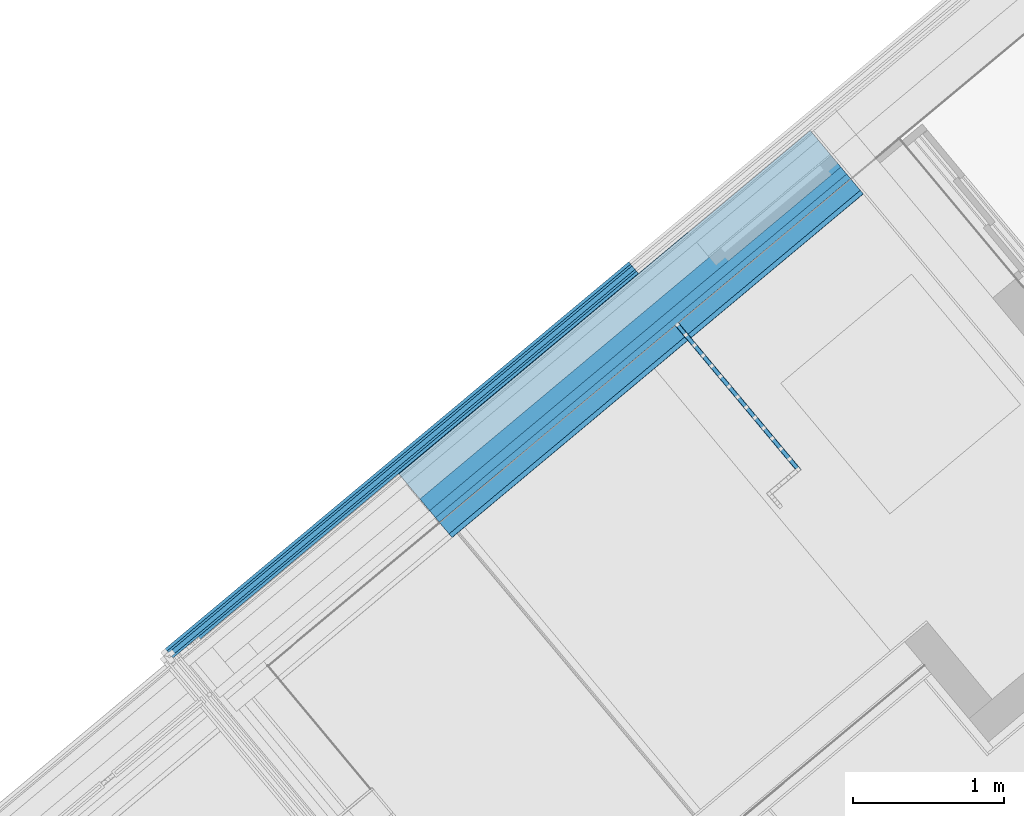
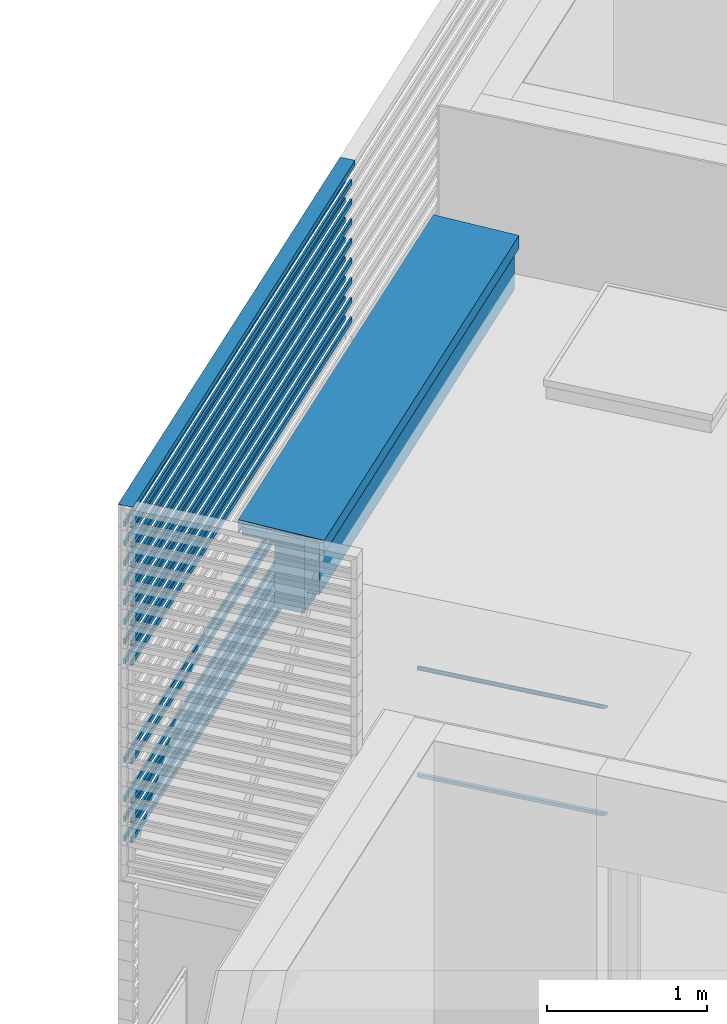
# One storey, part 24 of 50: 21 building element parts, 3 elements without a shape of their own.
"""IFC4 building model written with IfcOpenShell, lengths in metres."""

from ifc_helpers import new_model, entity, si_unit, converted_unit, derived_unit, direction, frame, origin_with_axes, place, context, subcontext, project, spatial, polygons, material, type_object, element, aggregate, save


model = new_model("IFC4")

# Units and contexts
model_context = context("Model", 3, precision=1e-05, world=origin_with_axes(), true_north=direction((0.0, 1.0)))
body_context = subcontext(model_context, "Body", "Model", "MODEL_VIEW")
ifc_project = project(units=[si_unit("LENGTHUNIT", "METRE"), si_unit("AREAUNIT", "SQUARE_METRE"), si_unit("VOLUMEUNIT", "CUBIC_METRE"), converted_unit("PLANEANGLEUNIT", "DEGREE", entity("IfcPlaneAngleMeasure", 0.0174532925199), si_unit("PLANEANGLEUNIT", "RADIAN"), dimensions=[0, 0, 0, 0, 0, 0, 0]), converted_unit("TIMEUNIT", "Year", entity("IfcTimeMeasure", 31556926.0), si_unit("TIMEUNIT", "SECOND"), dimensions=[0, 0, 1, 0, 0, 0, 0]), si_unit("MASSUNIT", "GRAM", prefix="KILO"), si_unit("THERMODYNAMICTEMPERATUREUNIT", "DEGREE_CELSIUS"), si_unit("LUMINOUSINTENSITYUNIT", "LUMEN"), si_unit("ENERGYUNIT", "JOULE", prefix="MEGA"), derived_unit("THERMALCONDUCTANCEUNIT", [(si_unit("POWERUNIT", "WATT"), 1), (si_unit("LENGTHUNIT", "METRE"), -1), (si_unit("THERMODYNAMICTEMPERATUREUNIT", "KELVIN"), -1)]), derived_unit("SPECIFICHEATCAPACITYUNIT", [(si_unit("ENERGYUNIT", "JOULE"), 1), (si_unit("MASSUNIT", "GRAM", prefix="KILO"), -1), (si_unit("THERMODYNAMICTEMPERATUREUNIT", "KELVIN"), -1)]), derived_unit("MASSDENSITYUNIT", [(si_unit("MASSUNIT", "GRAM", prefix="KILO"), 1), (si_unit("VOLUMEUNIT", "CUBIC_METRE"), -1)])], contexts=[model_context])

# Site, building, storey, space
site_placement = place(None, frame((-0.00153261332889, -0.00661245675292, 0.0), z_axis=(0.0, 0.0, 1.0), x_axis=(1.0, 0.0, 0.0)))
site = spatial("IfcSite", under=ifc_project, at=site_placement, Name="Gelände", CompositionType="ELEMENT")
building_placement = place(site_placement, origin_with_axes())
building = spatial("IfcBuilding", under=site, at=building_placement, Name="Gebäude", CompositionType="ELEMENT")
storey_placement = place(building_placement, frame((0.0, 0.0, 8.66), z_axis=(0.0, 0.0, 1.0), x_axis=(1.0, 0.0, 0.0)))
storey = spatial("IfcBuildingStorey", under=building, at=storey_placement, Name="DG2", CompositionType="ELEMENT", Elevation=8.66)
space_1_placement = place(storey_placement, frame((0.280300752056, 22.6307267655, 0.22), z_axis=(0.0, 0.0, 1.0), x_axis=(-0.641244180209, 0.767336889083, 0.0)))
space_1 = spatial("IfcSpace", under=storey, at=space_1_placement, CompositionType="ELEMENT", PredefinedType="NOTDEFINED")

# Railing, building element parts
railing_type = type_object("IfcRailingType", Name="Geländerart", PredefinedType="NOTDEFINED")
railing_placement = place(space_1_placement, frame((2.55535950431, -0.251805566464, -0.17), z_axis=(0.0, 0.0, 1.0), x_axis=(-0.641244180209, -0.767336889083, 0.0)))
railing = element("IfcRailing", 1, at=railing_placement, inside=space_1, type_object=railing_type, Name="Geländer - 001", PredefinedType="NOTDEFINED")
ifc_material_1 = material(Name="BEKLEIDUNG")
building_element_part_1_placement = place(railing_placement, origin_with_axes())
building_element_part_1 = element("IfcBuildingElementPart", 2, at=building_element_part_1_placement, material=ifc_material_1, Name="BEKLEIDUNG", PredefinedType="NOTDEFINED", context=body_context, shape_type="Tessellation", body=[
    polygons([(0.0498809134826, 0.0416760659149, 0.885), (0.0497060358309, 0.0415299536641, 0.887604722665), (0.858488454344, -0.926479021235, 0.887604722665), (0.858808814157, -0.9265070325, 0.885), (0.0497060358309, 0.0415299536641, 0.882395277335), (0.0491867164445, 0.0410960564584, 0.87986969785), (0.0483387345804, 0.040387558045, 0.8775), (0.0471878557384, 0.0394259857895, 0.875358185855), (0.0457690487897, 0.0382405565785, 0.873509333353), (0.0441254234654, 0.0368672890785, 0.872009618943), (0.0423069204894, 0.0353479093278, 0.870904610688), (0.0403687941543, 0.0337285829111, 0.870227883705), (0.0383699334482, 0.0320585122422, 0.87), (0.036371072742, 0.0303884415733, 0.870227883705), (0.034432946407, 0.0287691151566, 0.870904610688), (0.0326144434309, 0.0272497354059, 0.872009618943), (0.0309708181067, 0.0258764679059, 0.873509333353), (0.0295520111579, 0.0246910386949, 0.875358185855), (0.0284011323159, 0.0237294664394, 0.8775), (0.0275531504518, 0.023020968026, 0.87986969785), (0.0270338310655, 0.0225870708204, 0.882395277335), (0.0268589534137, 0.0224409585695, 0.885), (0.0270338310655, 0.0225870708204, 0.887604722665), (0.0275531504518, 0.023020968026, 0.89013030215), (0.0284011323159, 0.0237294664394, 0.8925), (0.0295520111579, 0.0246910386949, 0.894641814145), (0.0309708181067, 0.0258764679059, 0.896490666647), (0.0326144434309, 0.0272497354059, 0.897990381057), (0.034432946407, 0.0287691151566, 0.899095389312), (0.036371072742, 0.0303884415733, 0.899772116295), (0.0383699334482, 0.0320585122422, 0.9), (0.0403687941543, 0.0337285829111, 0.899772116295), (0.0423069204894, 0.0353479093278, 0.899095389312), (0.0441254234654, 0.0368672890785, 0.897990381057), (0.0457690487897, 0.0382405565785, 0.896490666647), (0.0471878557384, 0.0394259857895, 0.894641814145), (0.0483387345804, 0.040387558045, 0.8925), (0.0491867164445, 0.0410960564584, 0.89013030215), (0.857537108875, -0.926395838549, 0.89013030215), (0.855983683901, -0.926260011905, 0.8925), (0.853875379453, -0.926075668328, 0.894641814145), (0.851276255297, -0.925848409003, 0.896490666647), (0.848265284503, -0.925585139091, 0.897990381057), (0.844933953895, -0.925293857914, 0.899095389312), (0.84138348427, -0.924983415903, 0.899772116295), (0.837721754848, -0.924663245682, 0.9), (0.834060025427, -0.924343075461, 0.899772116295), (0.830509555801, -0.92403263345, 0.899095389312), (0.827178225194, -0.923741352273, 0.897990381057), (0.8241672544, -0.92347808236, 0.896490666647), (0.821568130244, -0.923250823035, 0.894641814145), (0.819459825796, -0.923066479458, 0.8925), (0.817906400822, -0.922930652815, 0.89013030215), (0.816955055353, -0.922847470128, 0.887604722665), (0.81663469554, -0.922819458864, 0.885), (0.816955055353, -0.922847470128, 0.882395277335), (0.817906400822, -0.922930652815, 0.87986969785), (0.819459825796, -0.923066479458, 0.8775), (0.821568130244, -0.923250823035, 0.875358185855), (0.8241672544, -0.92347808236, 0.873509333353), (0.827178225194, -0.923741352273, 0.872009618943), (0.830509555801, -0.92403263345, 0.870904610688), (0.834060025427, -0.924343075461, 0.870227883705), (0.837721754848, -0.924663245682, 0.87), (0.84138348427, -0.924983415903, 0.870227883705), (0.844933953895, -0.925293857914, 0.870904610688), (0.848265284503, -0.925585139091, 0.872009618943), (0.851276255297, -0.925848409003, 0.873509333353), (0.853875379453, -0.926075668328, 0.875358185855), (0.855983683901, -0.926260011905, 0.8775), (0.857537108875, -0.926395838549, 0.87986969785), (0.858488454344, -0.926479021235, 0.882395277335)], [[[1, 2, 3, 4]], [[1, 5, 6, 7, 8, 9, 10, 11, 12, 13, 14, 15, 16, 17, 18, 19, 20, 21, 22, 23, 24, 25, 26, 27, 28, 29, 30, 31, 32, 33, 34, 35, 36, 37, 38, 2]], [[2, 38, 39, 3]], [[4, 3, 39, 40, 41, 42, 43, 44, 45, 46, 47, 48, 49, 50, 51, 52, 53, 54, 55, 56, 57, 58, 59, 60, 61, 62, 63, 64, 65, 66, 67, 68, 69, 70, 71, 72]], [[5, 1, 4, 72]], [[6, 5, 72, 71]], [[7, 6, 71, 70]], [[8, 7, 70, 69]], [[9, 8, 69, 68]], [[10, 9, 68, 67]], [[11, 10, 67, 66]], [[12, 11, 66, 65]], [[13, 12, 65, 64]], [[14, 13, 64, 63]], [[15, 14, 63, 62]], [[16, 15, 62, 61]], [[17, 16, 61, 60]], [[18, 17, 60, 59]], [[19, 18, 59, 58]], [[20, 19, 58, 57]], [[21, 20, 57, 56]], [[22, 21, 56, 55]], [[23, 22, 55, 54]], [[24, 23, 54, 53]], [[25, 24, 53, 52]], [[26, 25, 52, 51]], [[27, 26, 51, 50]], [[28, 27, 50, 49]], [[29, 28, 49, 48]], [[30, 29, 48, 47]], [[31, 30, 47, 46]], [[32, 31, 46, 45]], [[33, 32, 45, 44]], [[34, 33, 44, 43]], [[35, 34, 43, 42]], [[36, 35, 42, 41]], [[37, 36, 41, 40]], [[38, 37, 40, 39]]], closed=True),
])
building_element_part_2_placement = place(railing_placement, origin_with_axes())
building_element_part_2 = element("IfcBuildingElementPart", 3, at=building_element_part_2_placement, material=ifc_material_1, Name="BEKLEIDUNG", PredefinedType="NOTDEFINED", context=body_context, shape_type="Tessellation", body=[
    polygons([(0.0287774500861, 0.0240438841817, 0.0825), (0.0287774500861, 0.0240438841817, 0.0575), (0.820149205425, -0.923126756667, 0.0575), (0.820149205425, -0.923126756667, 0.0825), (0.0479624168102, 0.0400731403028, 0.0825), (0.0479624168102, 0.0400731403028, 0.0575), (0.855294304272, -0.926199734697, 0.0575), (0.855294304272, -0.926199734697, 0.0825)], [[[1, 2, 3, 4]], [[1, 5, 6, 2]], [[2, 6, 7, 3]], [[4, 3, 7, 8]], [[5, 1, 4, 8]], [[6, 5, 8, 7]]], closed=True),
])
aggregate(railing, [building_element_part_1, building_element_part_2])

# Space
space_2_placement = place(storey_placement, frame((-4.06558748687, 22.1637970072, 0.22), z_axis=(0.0, 0.0, 1.0), x_axis=(-0.767365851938, -0.641209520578, 0.0)))
space_2 = spatial("IfcSpace", under=storey, at=space_2_placement, CompositionType="ELEMENT", PredefinedType="NOTDEFINED")

# Curtain wall, building element parts
curtain_wall_type = type_object("IfcCurtainWallType", Name="Fassadentyp", PredefinedType="NOTDEFINED")
curtain_wall_placement = place(space_2_placement, frame((-1.95298492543, -0.601365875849, 0.1), z_axis=(0.0, 0.0, 1.0), x_axis=(-0.767365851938, 0.641209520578, 0.0)))
curtain_wall = element("IfcCurtainWall", 4, at=curtain_wall_placement, inside=space_2, type_object=curtain_wall_type, Name="Fassade-001", PredefinedType="NOTDEFINED")
ifc_material_2 = material(Name="Blech")
building_element_part_3_placement = place(curtain_wall_placement, origin_with_axes())
building_element_part_3 = element("IfcBuildingElementPart", 5, at=building_element_part_3_placement, material=ifc_material_2, Name="Blech", PredefinedType="NOTDEFINED", context=body_context, shape_type="Tessellation", body=[
    polygons([(-1.51294866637, -1.28196990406, 1.8), (-1.51294866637, -1.28196990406, 1.82), (1.54752517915, 1.27174910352, 1.82), (1.54752517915, 1.27174910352, 1.8), (1.54752517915, 1.27174910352, 1.78), (-1.51294866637, -1.28196990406, 1.78), (-1.50333851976, -1.29348706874, 1.78), (-1.50333851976, -1.29348706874, 1.82), (1.55713532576, 1.26023193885, 1.82), (1.55713532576, 1.26023193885, 1.78)], [[[1, 2, 3, 4, 5, 6]], [[6, 7, 8, 2, 1]], [[3, 2, 8, 9]], [[4, 3, 9, 10, 5]], [[5, 10, 7, 6]], [[10, 9, 8, 7]]], closed=True),
    polygons([(1.52830488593, 1.29478343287, 1.78), (1.51869473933, 1.30630059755, 1.78), (1.51869473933, 1.30630059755, 1.82), (1.52830488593, 1.29478343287, 1.82), (1.52830488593, 1.29478343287, 1.8), (-1.53216895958, -1.25893557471, 1.78), (-1.54177910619, -1.24741841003, 1.78), (-1.54177910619, -1.24741841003, 1.82), (-1.53216895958, -1.25893557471, 1.82), (-1.53216895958, -1.25893557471, 1.8)], [[[1, 2, 3, 4, 5]], [[6, 7, 2, 1]], [[3, 2, 7, 8]], [[9, 4, 3, 8]], [[5, 4, 9, 10, 6, 1]], [[10, 9, 8, 7, 6]]], closed=True),
])
building_element_part_4_placement = place(curtain_wall_placement, origin_with_axes())
building_element_part_4 = element("IfcBuildingElementPart", 6, at=building_element_part_4_placement, material=ifc_material_2, Name="Blech", PredefinedType="NOTDEFINED", context=body_context, shape_type="Tessellation", body=[
    polygons([(-1.51294866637, -1.28196990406, 2.4), (-1.51294866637, -1.28196990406, 2.42), (1.54752517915, 1.27174910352, 2.42), (1.54752517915, 1.27174910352, 2.4), (1.54752517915, 1.27174910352, 2.38), (-1.51294866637, -1.28196990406, 2.38), (-1.50333851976, -1.29348706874, 2.38), (-1.50333851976, -1.29348706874, 2.42), (1.55713532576, 1.26023193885, 2.42), (1.55713532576, 1.26023193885, 2.38)], [[[1, 2, 3, 4, 5, 6]], [[6, 7, 8, 2, 1]], [[3, 2, 8, 9]], [[4, 3, 9, 10, 5]], [[5, 10, 7, 6]], [[10, 9, 8, 7]]], closed=True),
    polygons([(1.52830488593, 1.29478343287, 2.38), (1.51869473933, 1.30630059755, 2.38), (1.51869473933, 1.30630059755, 2.42), (1.52830488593, 1.29478343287, 2.42), (1.52830488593, 1.29478343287, 2.4), (-1.53216895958, -1.25893557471, 2.38), (-1.54177910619, -1.24741841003, 2.38), (-1.54177910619, -1.24741841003, 2.42), (-1.53216895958, -1.25893557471, 2.42), (-1.53216895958, -1.25893557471, 2.4)], [[[1, 2, 3, 4, 5]], [[6, 7, 2, 1]], [[3, 2, 7, 8]], [[9, 4, 3, 8]], [[5, 4, 9, 10, 6, 1]], [[10, 9, 8, 7, 6]]], closed=True),
])
building_element_part_5_placement = place(curtain_wall_placement, origin_with_axes())
building_element_part_5 = element("IfcBuildingElementPart", 7, at=building_element_part_5_placement, material=ifc_material_2, Name="Blech", PredefinedType="NOTDEFINED", context=body_context, shape_type="Tessellation", body=[
    polygons([(-1.51294866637, -1.28196990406, 1.95), (-1.51294866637, -1.28196990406, 1.97), (1.54752517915, 1.27174910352, 1.97), (1.54752517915, 1.27174910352, 1.95), (1.54752517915, 1.27174910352, 1.93), (-1.51294866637, -1.28196990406, 1.93), (-1.50333851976, -1.29348706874, 1.93), (-1.50333851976, -1.29348706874, 1.97), (1.55713532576, 1.26023193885, 1.97), (1.55713532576, 1.26023193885, 1.93)], [[[1, 2, 3, 4, 5, 6]], [[6, 7, 8, 2, 1]], [[3, 2, 8, 9]], [[4, 3, 9, 10, 5]], [[5, 10, 7, 6]], [[10, 9, 8, 7]]], closed=True),
    polygons([(1.52830488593, 1.29478343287, 1.93), (1.51869473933, 1.30630059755, 1.93), (1.51869473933, 1.30630059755, 1.97), (1.52830488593, 1.29478343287, 1.97), (1.52830488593, 1.29478343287, 1.95), (-1.53216895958, -1.25893557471, 1.93), (-1.54177910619, -1.24741841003, 1.93), (-1.54177910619, -1.24741841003, 1.97), (-1.53216895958, -1.25893557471, 1.97), (-1.53216895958, -1.25893557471, 1.95)], [[[1, 2, 3, 4, 5]], [[6, 7, 2, 1]], [[3, 2, 7, 8]], [[9, 4, 3, 8]], [[5, 4, 9, 10, 6, 1]], [[10, 9, 8, 7, 6]]], closed=True),
])
building_element_part_6_placement = place(curtain_wall_placement, origin_with_axes())
building_element_part_6 = element("IfcBuildingElementPart", 8, at=building_element_part_6_placement, material=ifc_material_2, Name="Blech", PredefinedType="NOTDEFINED", context=body_context, shape_type="Tessellation", body=[
    polygons([(-1.51294866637, -1.28196990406, 2.1), (-1.51294866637, -1.28196990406, 2.12), (1.54752517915, 1.27174910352, 2.12), (1.54752517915, 1.27174910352, 2.1), (1.54752517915, 1.27174910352, 2.08), (-1.51294866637, -1.28196990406, 2.08), (-1.50333851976, -1.29348706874, 2.08), (-1.50333851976, -1.29348706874, 2.12), (1.55713532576, 1.26023193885, 2.12), (1.55713532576, 1.26023193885, 2.08)], [[[1, 2, 3, 4, 5, 6]], [[6, 7, 8, 2, 1]], [[3, 2, 8, 9]], [[4, 3, 9, 10, 5]], [[5, 10, 7, 6]], [[10, 9, 8, 7]]], closed=True),
    polygons([(1.52830488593, 1.29478343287, 2.08), (1.51869473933, 1.30630059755, 2.08), (1.51869473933, 1.30630059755, 2.12), (1.52830488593, 1.29478343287, 2.12), (1.52830488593, 1.29478343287, 2.1), (-1.53216895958, -1.25893557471, 2.08), (-1.54177910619, -1.24741841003, 2.08), (-1.54177910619, -1.24741841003, 2.12), (-1.53216895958, -1.25893557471, 2.12), (-1.53216895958, -1.25893557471, 2.1)], [[[1, 2, 3, 4, 5]], [[6, 7, 2, 1]], [[3, 2, 7, 8]], [[9, 4, 3, 8]], [[5, 4, 9, 10, 6, 1]], [[10, 9, 8, 7, 6]]], closed=True),
])
building_element_part_7_placement = place(curtain_wall_placement, origin_with_axes())
building_element_part_7 = element("IfcBuildingElementPart", 9, at=building_element_part_7_placement, material=ifc_material_2, Name="Blech", PredefinedType="NOTDEFINED", context=body_context, shape_type="Tessellation", body=[
    polygons([(-1.51294866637, -1.28196990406, 3.15), (-1.51294866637, -1.28196990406, 3.17), (1.54752517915, 1.27174910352, 3.17), (1.54752517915, 1.27174910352, 3.15), (1.54752517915, 1.27174910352, 3.13), (-1.51294866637, -1.28196990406, 3.13), (-1.50333851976, -1.29348706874, 3.13), (-1.50333851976, -1.29348706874, 3.17), (1.55713532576, 1.26023193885, 3.17), (1.55713532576, 1.26023193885, 3.13)], [[[1, 2, 3, 4, 5, 6]], [[6, 7, 8, 2, 1]], [[3, 2, 8, 9]], [[4, 3, 9, 10, 5]], [[5, 10, 7, 6]], [[10, 9, 8, 7]]], closed=True),
    polygons([(1.52830488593, 1.29478343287, 3.13), (1.51869473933, 1.30630059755, 3.13), (1.51869473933, 1.30630059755, 3.17), (1.52830488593, 1.29478343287, 3.17), (1.52830488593, 1.29478343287, 3.15), (-1.53216895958, -1.25893557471, 3.13), (-1.54177910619, -1.24741841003, 3.13), (-1.54177910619, -1.24741841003, 3.17), (-1.53216895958, -1.25893557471, 3.17), (-1.53216895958, -1.25893557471, 3.15)], [[[1, 2, 3, 4, 5]], [[6, 7, 2, 1]], [[3, 2, 7, 8]], [[9, 4, 3, 8]], [[5, 4, 9, 10, 6, 1]], [[10, 9, 8, 7, 6]]], closed=True),
])
building_element_part_8_placement = place(curtain_wall_placement, origin_with_axes())
building_element_part_8 = element("IfcBuildingElementPart", 10, at=building_element_part_8_placement, material=ifc_material_2, Name="Blech", PredefinedType="NOTDEFINED", context=body_context, shape_type="Tessellation", body=[
    polygons([(-1.51294866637, -1.28196990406, 3.3), (-1.51294866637, -1.28196990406, 3.32), (1.54752517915, 1.27174910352, 3.32), (1.54752517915, 1.27174910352, 3.3), (1.54752517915, 1.27174910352, 3.28), (-1.51294866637, -1.28196990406, 3.28), (-1.50333851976, -1.29348706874, 3.28), (-1.50333851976, -1.29348706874, 3.32), (1.55713532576, 1.26023193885, 3.32), (1.55713532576, 1.26023193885, 3.28)], [[[1, 2, 3, 4, 5, 6]], [[6, 7, 8, 2, 1]], [[3, 2, 8, 9]], [[4, 3, 9, 10, 5]], [[5, 10, 7, 6]], [[10, 9, 8, 7]]], closed=True),
    polygons([(1.52830488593, 1.29478343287, 3.28), (1.51869473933, 1.30630059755, 3.28), (1.51869473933, 1.30630059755, 3.32), (1.52830488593, 1.29478343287, 3.32), (1.52830488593, 1.29478343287, 3.3), (-1.53216895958, -1.25893557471, 3.28), (-1.54177910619, -1.24741841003, 3.28), (-1.54177910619, -1.24741841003, 3.32), (-1.53216895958, -1.25893557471, 3.32), (-1.53216895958, -1.25893557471, 3.3)], [[[1, 2, 3, 4, 5]], [[6, 7, 2, 1]], [[3, 2, 7, 8]], [[9, 4, 3, 8]], [[5, 4, 9, 10, 6, 1]], [[10, 9, 8, 7, 6]]], closed=True),
])
building_element_part_9_placement = place(curtain_wall_placement, origin_with_axes())
building_element_part_9 = element("IfcBuildingElementPart", 11, at=building_element_part_9_placement, material=ifc_material_2, Name="Blech", PredefinedType="NOTDEFINED", context=body_context, shape_type="Tessellation", body=[
    polygons([(-1.51294866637, -1.28196990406, 3.45), (-1.51294866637, -1.28196990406, 3.47), (1.54752517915, 1.27174910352, 3.47), (1.54752517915, 1.27174910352, 3.45), (1.54752517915, 1.27174910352, 3.43), (-1.51294866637, -1.28196990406, 3.43), (-1.50333851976, -1.29348706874, 3.43), (-1.50333851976, -1.29348706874, 3.47), (1.55713532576, 1.26023193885, 3.47), (1.55713532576, 1.26023193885, 3.43)], [[[1, 2, 3, 4, 5, 6]], [[6, 7, 8, 2, 1]], [[3, 2, 8, 9]], [[4, 3, 9, 10, 5]], [[5, 10, 7, 6]], [[10, 9, 8, 7]]], closed=True),
    polygons([(1.52830488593, 1.29478343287, 3.43), (1.51869473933, 1.30630059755, 3.43), (1.51869473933, 1.30630059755, 3.47), (1.52830488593, 1.29478343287, 3.47), (1.52830488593, 1.29478343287, 3.45), (-1.53216895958, -1.25893557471, 3.43), (-1.54177910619, -1.24741841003, 3.43), (-1.54177910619, -1.24741841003, 3.47), (-1.53216895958, -1.25893557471, 3.47), (-1.53216895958, -1.25893557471, 3.45)], [[[1, 2, 3, 4, 5]], [[6, 7, 2, 1]], [[3, 2, 7, 8]], [[9, 4, 3, 8]], [[5, 4, 9, 10, 6, 1]], [[10, 9, 8, 7, 6]]], closed=True),
])
building_element_part_10_placement = place(curtain_wall_placement, origin_with_axes())
building_element_part_10 = element("IfcBuildingElementPart", 12, at=building_element_part_10_placement, material=ifc_material_2, Name="Blech", PredefinedType="NOTDEFINED", context=body_context, shape_type="Tessellation", body=[
    polygons([(-1.51294866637, -1.28196990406, 3.6), (-1.51294866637, -1.28196990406, 3.62), (1.54752517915, 1.27174910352, 3.62), (1.54752517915, 1.27174910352, 3.6), (1.54752517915, 1.27174910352, 3.58), (-1.51294866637, -1.28196990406, 3.58), (-1.50333851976, -1.29348706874, 3.58), (-1.50333851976, -1.29348706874, 3.62), (1.55713532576, 1.26023193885, 3.62), (1.55713532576, 1.26023193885, 3.58)], [[[1, 2, 3, 4, 5, 6]], [[6, 7, 8, 2, 1]], [[3, 2, 8, 9]], [[4, 3, 9, 10, 5]], [[5, 10, 7, 6]], [[10, 9, 8, 7]]], closed=True),
    polygons([(1.52830488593, 1.29478343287, 3.58), (1.51869473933, 1.30630059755, 3.58), (1.51869473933, 1.30630059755, 3.62), (1.52830488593, 1.29478343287, 3.62), (1.52830488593, 1.29478343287, 3.6), (-1.53216895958, -1.25893557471, 3.58), (-1.54177910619, -1.24741841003, 3.58), (-1.54177910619, -1.24741841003, 3.62), (-1.53216895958, -1.25893557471, 3.62), (-1.53216895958, -1.25893557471, 3.6)], [[[1, 2, 3, 4, 5]], [[6, 7, 2, 1]], [[3, 2, 7, 8]], [[9, 4, 3, 8]], [[5, 4, 9, 10, 6, 1]], [[10, 9, 8, 7, 6]]], closed=True),
])
building_element_part_11_placement = place(curtain_wall_placement, origin_with_axes())
building_element_part_11 = element("IfcBuildingElementPart", 13, at=building_element_part_11_placement, material=ifc_material_2, Name="Blech", PredefinedType="NOTDEFINED", context=body_context, shape_type="Tessellation", body=[
    polygons([(-1.51294866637, -1.28196990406, 3.75), (-1.51294866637, -1.28196990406, 3.77), (1.54752517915, 1.27174910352, 3.77), (1.54752517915, 1.27174910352, 3.75), (1.54752517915, 1.27174910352, 3.73), (-1.51294866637, -1.28196990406, 3.73), (-1.50333851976, -1.29348706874, 3.73), (-1.50333851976, -1.29348706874, 3.77), (1.55713532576, 1.26023193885, 3.77), (1.55713532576, 1.26023193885, 3.73)], [[[1, 2, 3, 4, 5, 6]], [[6, 7, 8, 2, 1]], [[3, 2, 8, 9]], [[4, 3, 9, 10, 5]], [[5, 10, 7, 6]], [[10, 9, 8, 7]]], closed=True),
    polygons([(1.52830488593, 1.29478343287, 3.73), (1.51869473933, 1.30630059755, 3.73), (1.51869473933, 1.30630059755, 3.77), (1.52830488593, 1.29478343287, 3.77), (1.52830488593, 1.29478343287, 3.75), (-1.53216895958, -1.25893557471, 3.73), (-1.54177910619, -1.24741841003, 3.73), (-1.54177910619, -1.24741841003, 3.77), (-1.53216895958, -1.25893557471, 3.77), (-1.53216895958, -1.25893557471, 3.75)], [[[1, 2, 3, 4, 5]], [[6, 7, 2, 1]], [[3, 2, 7, 8]], [[9, 4, 3, 8]], [[5, 4, 9, 10, 6, 1]], [[10, 9, 8, 7, 6]]], closed=True),
])
building_element_part_12_placement = place(curtain_wall_placement, origin_with_axes())
building_element_part_12 = element("IfcBuildingElementPart", 14, at=building_element_part_12_placement, material=ifc_material_2, Name="Blech", PredefinedType="NOTDEFINED", context=body_context, shape_type="Tessellation", body=[
    polygons([(-1.51294866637, -1.28196990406, 3.9), (-1.51294866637, -1.28196990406, 3.92), (1.54752517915, 1.27174910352, 3.92), (1.54752517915, 1.27174910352, 3.9), (1.54752517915, 1.27174910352, 3.88), (-1.51294866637, -1.28196990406, 3.88), (-1.50333851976, -1.29348706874, 3.88), (-1.50333851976, -1.29348706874, 3.92), (1.55713532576, 1.26023193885, 3.92), (1.55713532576, 1.26023193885, 3.88)], [[[1, 2, 3, 4, 5, 6]], [[6, 7, 8, 2, 1]], [[3, 2, 8, 9]], [[4, 3, 9, 10, 5]], [[5, 10, 7, 6]], [[10, 9, 8, 7]]], closed=True),
    polygons([(1.52830488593, 1.29478343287, 3.88), (1.51869473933, 1.30630059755, 3.88), (1.51869473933, 1.30630059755, 3.92), (1.52830488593, 1.29478343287, 3.92), (1.52830488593, 1.29478343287, 3.9), (-1.53216895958, -1.25893557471, 3.88), (-1.54177910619, -1.24741841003, 3.88), (-1.54177910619, -1.24741841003, 3.92), (-1.53216895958, -1.25893557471, 3.92), (-1.53216895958, -1.25893557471, 3.9)], [[[1, 2, 3, 4, 5]], [[6, 7, 2, 1]], [[3, 2, 7, 8]], [[9, 4, 3, 8]], [[5, 4, 9, 10, 6, 1]], [[10, 9, 8, 7, 6]]], closed=True),
])
building_element_part_13_placement = place(curtain_wall_placement, origin_with_axes())
building_element_part_13 = element("IfcBuildingElementPart", 15, at=building_element_part_13_placement, material=ifc_material_2, Name="Blech", PredefinedType="NOTDEFINED", context=body_context, shape_type="Tessellation", body=[
    polygons([(-1.51294866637, -1.28196990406, 4.05), (-1.51294866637, -1.28196990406, 4.07), (1.54752517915, 1.27174910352, 4.07), (1.54752517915, 1.27174910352, 4.05), (1.54752517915, 1.27174910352, 4.03), (-1.51294866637, -1.28196990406, 4.03), (-1.50333851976, -1.29348706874, 4.03), (-1.50333851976, -1.29348706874, 4.07), (1.55713532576, 1.26023193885, 4.07), (1.55713532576, 1.26023193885, 4.03)], [[[1, 2, 3, 4, 5, 6]], [[6, 7, 8, 2, 1]], [[3, 2, 8, 9]], [[4, 3, 9, 10, 5]], [[5, 10, 7, 6]], [[10, 9, 8, 7]]], closed=True),
    polygons([(1.52830488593, 1.29478343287, 4.03), (1.51869473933, 1.30630059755, 4.03), (1.51869473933, 1.30630059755, 4.07), (1.52830488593, 1.29478343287, 4.07), (1.52830488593, 1.29478343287, 4.05), (-1.53216895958, -1.25893557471, 4.03), (-1.54177910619, -1.24741841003, 4.03), (-1.54177910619, -1.24741841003, 4.07), (-1.53216895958, -1.25893557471, 4.07), (-1.53216895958, -1.25893557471, 4.05)], [[[1, 2, 3, 4, 5]], [[6, 7, 2, 1]], [[3, 2, 7, 8]], [[9, 4, 3, 8]], [[5, 4, 9, 10, 6, 1]], [[10, 9, 8, 7, 6]]], closed=True),
])
building_element_part_14_placement = place(curtain_wall_placement, origin_with_axes())
building_element_part_14 = element("IfcBuildingElementPart", 16, at=building_element_part_14_placement, material=ifc_material_2, Name="Blech", PredefinedType="NOTDEFINED", context=body_context, shape_type="Tessellation", body=[
    polygons([(-1.51294866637, -1.28196990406, 4.2), (-1.51294866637, -1.28196990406, 4.22), (1.54752517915, 1.27174910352, 4.22), (1.54752517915, 1.27174910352, 4.2), (1.54752517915, 1.27174910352, 4.18), (-1.51294866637, -1.28196990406, 4.18), (-1.50333851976, -1.29348706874, 4.18), (-1.50333851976, -1.29348706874, 4.22), (1.55713532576, 1.26023193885, 4.22), (1.55713532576, 1.26023193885, 4.18)], [[[1, 2, 3, 4, 5, 6]], [[6, 7, 8, 2, 1]], [[3, 2, 8, 9]], [[4, 3, 9, 10, 5]], [[5, 10, 7, 6]], [[10, 9, 8, 7]]], closed=True),
    polygons([(1.52830488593, 1.29478343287, 4.18), (1.51869473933, 1.30630059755, 4.18), (1.51869473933, 1.30630059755, 4.22), (1.52830488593, 1.29478343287, 4.22), (1.52830488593, 1.29478343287, 4.2), (-1.53216895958, -1.25893557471, 4.18), (-1.54177910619, -1.24741841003, 4.18), (-1.54177910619, -1.24741841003, 4.22), (-1.53216895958, -1.25893557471, 4.22), (-1.53216895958, -1.25893557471, 4.2)], [[[1, 2, 3, 4, 5]], [[6, 7, 2, 1]], [[3, 2, 7, 8]], [[9, 4, 3, 8]], [[5, 4, 9, 10, 6, 1]], [[10, 9, 8, 7, 6]]], closed=True),
])
building_element_part_15_placement = place(curtain_wall_placement, origin_with_axes())
building_element_part_15 = element("IfcBuildingElementPart", 17, at=building_element_part_15_placement, material=ifc_material_2, Name="Blech", PredefinedType="NOTDEFINED", context=body_context, shape_type="Tessellation", body=[
    polygons([(1.54752517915, 1.27174910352, 4.35000006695), (1.52830488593, 1.29478343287, 4.35000006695), (1.52830488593, 1.29478343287, 4.33000006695), (1.50588121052, 1.32165681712, 4.33000006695), (1.50588121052, 1.32165681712, 4.37000006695), (1.56994885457, 1.24487571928, 4.37000006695), (1.56994885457, 1.24487571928, 4.33000006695), (1.54752517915, 1.27174910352, 4.33000006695), (-1.52830488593, -1.29478343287, 4.35000006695), (-1.54752517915, -1.27174910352, 4.35000006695), (-1.53216895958, -1.25893557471, 4.33000006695), (-1.554592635, -1.23206219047, 4.33000006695), (-1.58530507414, -1.25768924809, 4.37000006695), (-1.52123743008, -1.33447034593, 4.37000006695), (-1.49052499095, -1.3088432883, 4.33000006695), (-1.51294866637, -1.28196990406, 4.33000006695)], [[[1, 2, 3, 4, 5, 6, 7, 8]], [[2, 1, 9, 10]], [[11, 3, 2, 10]], [[3, 11, 12, 4]], [[5, 4, 12, 13]], [[6, 5, 13, 14]], [[7, 6, 14, 15]], [[16, 8, 7, 15]], [[1, 8, 16, 9]], [[9, 16, 15, 14, 13, 12, 11, 10]]], closed=True),
])
aggregate(curtain_wall, [building_element_part_3, building_element_part_4, building_element_part_5, building_element_part_6, building_element_part_7, building_element_part_8, building_element_part_9, building_element_part_10, building_element_part_11, building_element_part_12, building_element_part_13, building_element_part_14, building_element_part_15])

# Space
space_3_placement = place(storey_placement, frame((0.280300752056, 22.6307267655, 0.22), z_axis=(0.0, 0.0, 1.0), x_axis=(-0.641244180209, 0.767336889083, 0.0)))
space_3 = spatial("IfcSpace", under=storey, at=space_3_placement, CompositionType="ELEMENT", PredefinedType="NOTDEFINED")

# Wall, building element parts
wall_type = type_object("IfcWallType", Name="Bauteil - Attika 574 x 610", PredefinedType="NOTDEFINED")
wall_placement = place(space_3_placement, frame((2.76028949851, -1.79824961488, 2.47), z_axis=(0.0, 0.0, 1.0), x_axis=(4.51805432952e-05, 0.999999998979, 0.0)))
wall = element("IfcWall", 18, at=wall_placement, inside=space_3, type_object=wall_type, Name="Wand-004", PredefinedType="NOTDEFINED")
ifc_material_3 = material(Name="Stahl")
building_element_part_16_placement = place(wall_placement, origin_with_axes())
building_element_part_16 = element("IfcBuildingElementPart", 19, at=building_element_part_16_placement, material=ifc_material_3, Name="Stahl", PredefinedType="NOTDEFINED", context=body_context, shape_type="Tessellation", body=[
    polygons([(0.0, 0.332051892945, 0.589243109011), (3.53906479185, 0.332051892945, 0.589243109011), (3.53906479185, 0.332051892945, 0.489652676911), (0.0, 0.332051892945, 0.489652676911), (0.0, -0.241500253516, 0.610006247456), (3.53906479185, -0.241500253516, 0.610006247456), (3.53906479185, -0.241500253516, 0.510007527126), (3.53906479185, -0.240542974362, 0.509050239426), (3.53906479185, -0.231373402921, 0.518219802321), (3.53906479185, -0.232283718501, 0.519224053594), (3.53906479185, -0.240146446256, 0.51136132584), (3.53906479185, -0.240152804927, 0.608602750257), (3.53906479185, -0.239276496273, 0.608570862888), (3.53906479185, 0.330698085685, 0.587937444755), (3.53906479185, 0.330698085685, 0.491006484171), (3.53906479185, 0.32288233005, 0.498822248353), (3.53906479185, 0.321878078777, 0.497911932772), (3.53906479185, 0.331094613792, 0.488695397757), (0.0, 0.331094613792, 0.488695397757), (0.0, 0.321878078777, 0.497911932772), (0.0, 0.32288233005, 0.498822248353), (0.0, 0.330698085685, 0.491006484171), (0.0, 0.330698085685, 0.587937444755), (0.0, -0.239276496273, 0.608570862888), (0.0, -0.240152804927, 0.608602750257), (0.0, -0.240146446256, 0.51136132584), (0.0, -0.232283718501, 0.519224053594), (0.0, -0.231373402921, 0.518219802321), (0.0, -0.240542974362, 0.509050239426), (0.0, -0.241500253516, 0.510007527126)], [[[1, 2, 3, 4]], [[5, 6, 2, 1]], [[3, 2, 6, 7, 8, 9, 10, 11, 12, 13, 14, 15, 16, 17, 18]], [[4, 3, 18, 19]], [[5, 1, 4, 19, 20, 21, 22, 23, 24, 25, 26, 27, 28, 29, 30]], [[30, 7, 6, 5]], [[29, 8, 7, 30]], [[28, 9, 8, 29]], [[27, 10, 9, 28]], [[26, 11, 10, 27]], [[25, 12, 11, 26]], [[24, 13, 12, 25]], [[23, 14, 13, 24]], [[22, 15, 14, 23]], [[21, 16, 15, 22]], [[20, 17, 16, 21]], [[19, 18, 17, 20]]], closed=True),
])
ifc_material_4 = material(Name="Holzwerkstoff")
building_element_part_17_placement = place(wall_placement, origin_with_axes())
building_element_part_17 = element("IfcBuildingElementPart", 20, at=building_element_part_17_placement, material=ifc_material_4, Name="Holzwerkstoff", PredefinedType="NOTDEFINED", context=body_context, shape_type="Tessellation", body=[
    polygons([(0.0, 0.330698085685, 0.587938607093), (3.53906479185, 0.330698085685, 0.587938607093), (3.53906479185, 0.329999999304, 0.567947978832), (0.0, 0.329999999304, 0.567947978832), (0.0, -0.239276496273, 0.608570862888), (3.53906479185, -0.239276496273, 0.608570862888), (3.53906479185, -0.239999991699, 0.587852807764), (3.53906479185, -0.189984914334, 0.586106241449), (3.53906479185, -0.130124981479, 0.584015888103), (3.53906479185, 0.100000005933, 0.575979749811), (3.53906479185, 0.160110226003, 0.573880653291), (0.0, 0.160110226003, 0.573880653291), (0.0, 0.100000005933, 0.575979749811), (0.0, -0.130124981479, 0.584015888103), (0.0, -0.189984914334, 0.586106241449), (0.0, -0.239999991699, 0.587852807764)], [[[1, 2, 3, 4]], [[5, 6, 2, 1]], [[3, 2, 6, 7, 8, 9, 10, 11]], [[4, 3, 11, 12]], [[5, 1, 4, 12, 13, 14, 15, 16]], [[16, 7, 6, 5]], [[15, 8, 7, 16]], [[14, 9, 8, 15]], [[13, 10, 9, 14]], [[12, 11, 10, 13]]], closed=True),
])
ifc_material_5 = material(Name="EPS 1")
building_element_part_18_placement = place(wall_placement, origin_with_axes())
building_element_part_18 = element("IfcBuildingElementPart", 21, at=building_element_part_18_placement, material=ifc_material_5, Name="EPS 1", PredefinedType="NOTDEFINED", context=body_context, shape_type="Tessellation", body=[
    polygons([(0.0, 0.30000000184, 0.165000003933), (3.53906479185, 0.30000000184, 0.165000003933), (3.53906479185, 0.200000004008, 0.165000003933), (0.0, 0.200000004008, 0.165000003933), (0.0, 0.30000000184, 0.560000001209), (3.53906479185, 0.30000000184, 0.560000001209), (3.53906479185, 0.200000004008, 0.560000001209), (0.0, 0.200000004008, 0.560000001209)], [[[1, 2, 3, 4]], [[5, 6, 2, 1]], [[3, 2, 6, 7]], [[4, 3, 7, 8]], [[5, 1, 4, 8]], [[8, 7, 6, 5]]], closed=True),
])
ifc_material_6 = material(Name="Vollholz")
building_element_part_19_placement = place(wall_placement, origin_with_axes())
building_element_part_19 = element("IfcBuildingElementPart", 22, at=building_element_part_19_placement, material=ifc_material_6, Name="Vollholz", PredefinedType="NOTDEFINED", context=body_context, shape_type="Tessellation", body=[
    polygons([(0.0, 0.1, 0.575979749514), (3.53906479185, 0.1, 0.575979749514), (3.53906479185, 0.160110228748, 0.573880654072), (0.0, 0.160110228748, 0.573880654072), (0.0, 0.1, 0.560000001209), (3.53906479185, 0.1, 0.560000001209), (3.53906479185, 0.16, 0.560000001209), (0.0, 0.16, 0.560000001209)], [[[1, 2, 3, 4]], [[5, 6, 2, 1]], [[3, 2, 6, 7]], [[4, 3, 7, 8]], [[5, 1, 4, 8]], [[8, 7, 6, 5]]], closed=True),
])
ifc_material_7 = material(Name="Stahlbeton Wand Garage")
building_element_part_20_placement = place(wall_placement, origin_with_axes())
building_element_part_20 = element("IfcBuildingElementPart", 23, at=building_element_part_20_placement, material=ifc_material_7, Name="Stahlbeton Wand Garage", PredefinedType="NOTDEFINED", context=body_context, shape_type="Tessellation", body=[
    polygons([(0.0, 0.200000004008, 0.165000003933), (3.53906479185, 0.200000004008, 0.165000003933), (3.53906479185, 0.2, 0.0), (0.0, 0.2, 0.0), (0.0, 0.2, 0.5), (3.53906479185, 0.2, 0.5), (3.53906479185, 0.0, 0.5), (3.53906479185, 0.0, 0.0), (0.0, 0.0, 0.0), (0.0, 0.0, 0.5)], [[[1, 2, 3, 4]], [[5, 6, 2, 1]], [[3, 2, 6, 7, 8]], [[4, 3, 8, 9]], [[5, 1, 4, 9, 10]], [[10, 7, 6, 5]], [[9, 8, 7, 10]]], closed=True),
])
ifc_material_8 = material(Name="Brettschichtholz")
building_element_part_21_placement = place(wall_placement, origin_with_axes())
building_element_part_21 = element("IfcBuildingElementPart", 24, at=building_element_part_21_placement, material=ifc_material_8, Name="Brettschichtholz", PredefinedType="NOTDEFINED", context=body_context, shape_type="Tessellation", body=[
    polygons([(0.0, -0.130124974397, 0.56000000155), (3.53906479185, -0.130124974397, 0.56000000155), (3.53906479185, 0.0999999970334, 0.56000000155), (0.0, 0.0999999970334, 0.56000000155), (0.0, -0.19012497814, 0.56000000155), (3.53906479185, -0.19012497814, 0.56000000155), (3.53906479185, -0.214999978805, 0.56000000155), (3.53906479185, -0.214999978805, 0.499999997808), (3.53906479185, 0.200000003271, 0.499999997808), (3.53906479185, 0.200000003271, 0.56000000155), (3.53906479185, 0.160000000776, 0.56000000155), (0.0, 0.160000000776, 0.56000000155), (0.0, 0.200000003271, 0.56000000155), (0.0, 0.200000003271, 0.499999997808), (0.0, -0.214999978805, 0.499999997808), (0.0, -0.214999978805, 0.56000000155)], [[[1, 2, 3, 4]], [[5, 6, 2, 1]], [[3, 2, 6, 7, 8, 9, 10, 11]], [[4, 3, 11, 12]], [[5, 1, 4, 12, 13, 14, 15, 16]], [[16, 7, 6, 5]], [[15, 8, 7, 16]], [[14, 9, 8, 15]], [[13, 10, 9, 14]], [[12, 11, 10, 13]]], closed=True),
])
aggregate(wall, [building_element_part_16, building_element_part_17, building_element_part_18, building_element_part_19, building_element_part_20, building_element_part_21])

save(model, "model.ifc")
